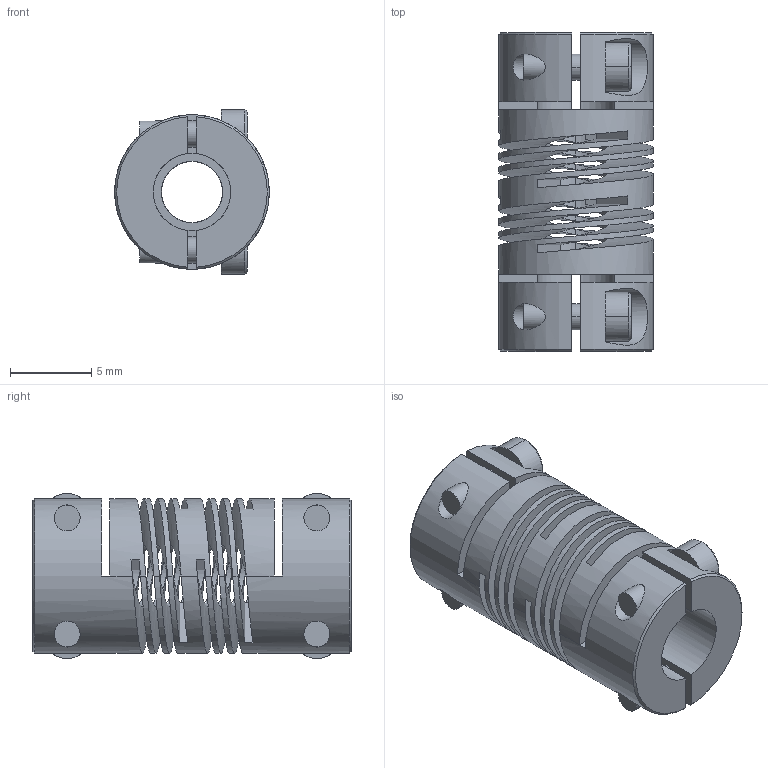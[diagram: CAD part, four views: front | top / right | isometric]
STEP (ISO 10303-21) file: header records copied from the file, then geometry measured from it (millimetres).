
FILE_DESCRIPTION((''),'2;1');
FILE_NAME('703_09','2006-12-06T',('Gary Melling'),(''),'PRO/ENGINEER BY PARAMETRIC TECHNOLOGY CORPORATION, 2006240','PRO/ENGINEER BY PARAMETRIC TECHNOLOGY CORPORATION, 2006240','');
FILE_SCHEMA(('CONFIG_CONTROL_DESIGN'));
Length unit declared in the file: millimetre
Products named in the file (1): 703_09
Bounding box: 9.5 x 19.6 x 10.13 mm (x, y, z)
Volume: 835 mm3; surface area: 1972.3 mm2
Topology: 1 solids, 1 shells, 160 faces, 438 edges, 280 vertices
Faces by surface type: plane 82, cylinder 54, bspline 12, cone 12
Entity records: 7202 total; most frequent: CARTESIAN_POINT 3224, ORIENTED_EDGE 876, DIRECTION 730, EDGE_CURVE 438, VERTEX_POINT 280, AXIS2_PLACEMENT_3D 244, VECTOR 242, LINE 242
